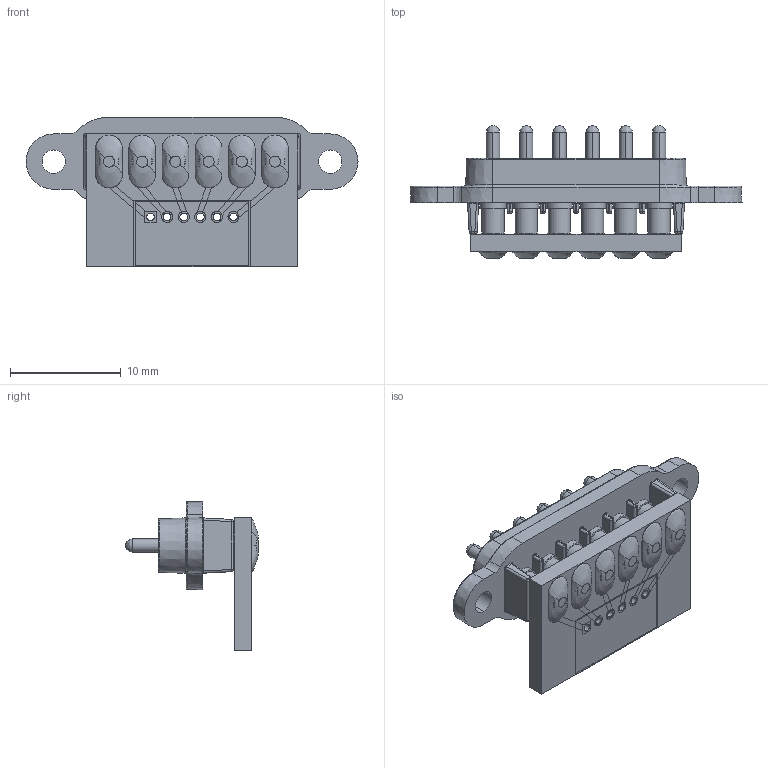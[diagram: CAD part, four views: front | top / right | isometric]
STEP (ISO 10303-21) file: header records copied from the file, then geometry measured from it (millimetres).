
FILE_DESCRIPTION (( 'STEP AP214' ), '1' );
FILE_NAME ('SWIFT DOCK MINI-6P-SC.STEP', '2021-07-28T14:44:45', ( '' ), ( '' ), 'SwSTEP 2.0', 'SolidWorks 2021', '' );
FILE_SCHEMA (( 'AUTOMOTIVE_DESIGN' ));
Length unit declared in the file: millimetre
Products named in the file (6): contact_sd_mini_12; solder_large_SD mini_18; body_6 hole_mini; PCB_6 way_mini_assy_pcb; SWIFT DOCK MINI-6P-SC; PCB_6 way_mini
Assembly tree (15 placements, depth 3):
  SWIFT DOCK MINI-6P-SC
    body_6 hole_mini
    contact_sd_mini_12  x6
    PCB_6 way_mini_assy_pcb
      PCB_6 way_mini
    solder_large_SD mini_18  x6
Bounding box: 30 x 12 x 13.5 mm (x, y, z)
Volume: 972.8 mm3; surface area: 2124.8 mm2
Topology: 14 solids, 20 shells, 714 faces, 1575 edges, 941 vertices
Faces by surface type: cylinder 306, plane 238, bspline 100, cone 70
Entity records: 23233 total; most frequent: CARTESIAN_POINT 6361, ORIENTED_EDGE 2366, DIRECTION 2117, EDGE_CURVE 1183, AXIS2_PLACEMENT_3D 792, VERTEX_POINT 701, EDGE_LOOP 576, LINE 533
